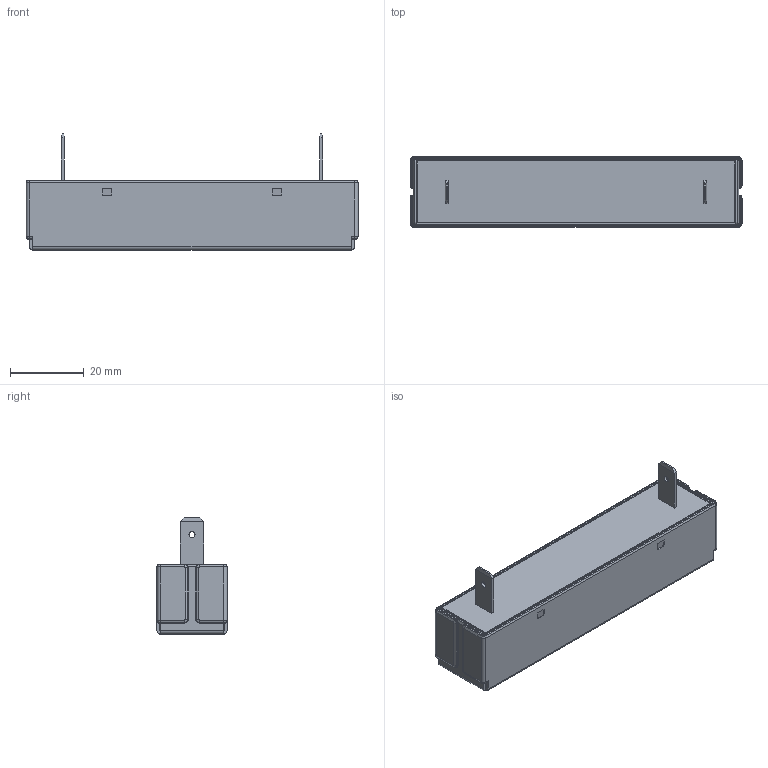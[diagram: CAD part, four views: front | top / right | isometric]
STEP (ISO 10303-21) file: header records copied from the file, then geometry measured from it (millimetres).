
FILE_DESCRIPTION(/* description */ (''),/* implementation_level */ '2;1');
FILE_NAME(/* name */ '',/* time_stamp */ '2025-12-16T14:02:25+09:00',/* author */ (''),/* organization */ (''),/* preprocessor_version */ 'ST-DEVELOPER v20.1',/* originating_system */ 'Autodesk Translation Framework v14.21.0.0',/* authorisation */ '');
FILE_SCHEMA (('AUTOMOTIVE_DESIGN { 1 0 10303 214 3 1 1 }'));
Length unit declared in the file: millimetre
Products named in the file (1): (未保存)
Bounding box: 90 x 19 x 31.5 mm (x, y, z)
Volume: 32135.7 mm3; surface area: 9121 mm2
Topology: 1 solids, 1 shells, 209 faces, 506 edges, 296 vertices
Faces by surface type: plane 115, cylinder 62, torus 16, cone 16
Full cylindrical faces by diameter (mm): 1.65 x2
Entity records: 6130 total; most frequent: DIRECTION 1082, CARTESIAN_POINT 1044, ORIENTED_EDGE 1012, EDGE_CURVE 506, AXIS2_PLACEMENT_3D 370, LINE 342, VECTOR 342, VERTEX_POINT 296
